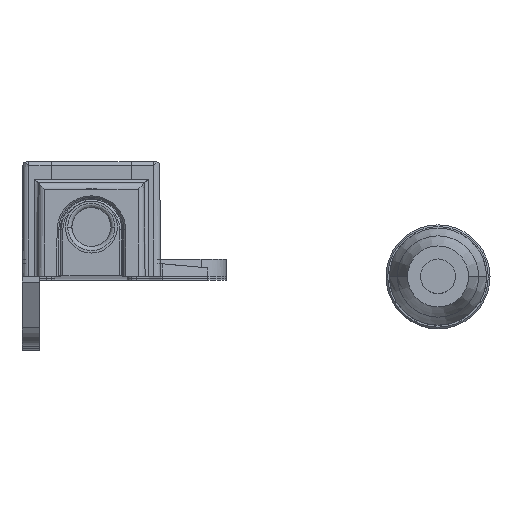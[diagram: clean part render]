
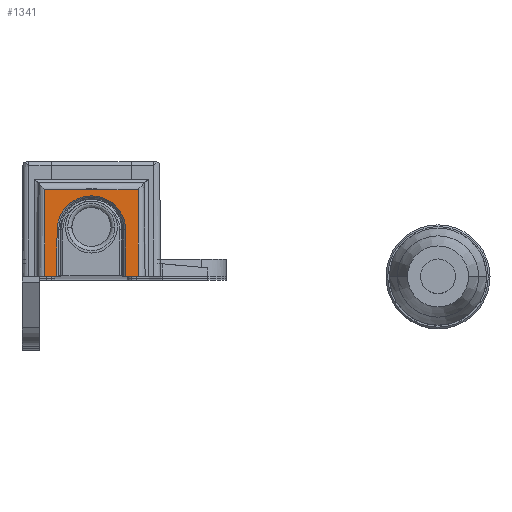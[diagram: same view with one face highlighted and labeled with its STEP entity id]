
A CAD part, top view. The second image highlights one B-rep face of the part: STEP entity #1341.
In plain terms, the highlighted planar face has unit normal (0, 0.009, 1).
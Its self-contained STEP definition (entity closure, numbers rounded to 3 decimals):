
#251 = CARTESIAN_POINT ( 'NONE',  ( -5., 0., 3.5 ) ) ;
#909 = DIRECTION ( 'NONE',  ( 1., 0., 0. ) ) ;
#1128 = CARTESIAN_POINT ( 'NONE',  ( 4.942, 6.7, 3.442 ) ) ;
#1341 = ADVANCED_FACE ( 'NONE', ( #25108 ), #5895, .T. ) ;
#2262 = EDGE_CURVE ( 'NONE', #19901, #13953, #17200, .T. ) ;
#2382 = DIRECTION ( 'NONE',  ( 0.009, 1., -0.009 ) ) ;
#2948 = AXIS2_PLACEMENT_3D ( 'NONE', #21167, #8064, #23355 ) ;
#3460 = VERTEX_POINT ( 'NONE', #3802 ) ;
#3633 = LINE ( 'NONE', #18305, #25474 ) ;
#3802 = CARTESIAN_POINT ( 'NONE',  ( -5., 0., 3.5 ) ) ;
#4552 = EDGE_CURVE ( 'NONE', #5711, #19959, #11131, .T. ) ;
#4646 = DIRECTION ( 'NONE',  ( -1., 0., 0. ) ) ;
#5666 = LINE ( 'NONE', #23295, #16577 ) ;
#5711 = VERTEX_POINT ( 'NONE', #14513 ) ;
#5895 = PLANE ( 'NONE',  #2948 ) ;
#6549 = ORIENTED_EDGE ( 'NONE', *, *, #23783, .T. ) ;
#6906 = CARTESIAN_POINT ( 'NONE',  ( -6.75, 12.509, 3.391 ) ) ;
#7523 = VECTOR ( 'NONE', #28116, 1000. ) ;
#8064 = DIRECTION ( 'NONE',  ( 0., 0.009, 1. ) ) ;
#8068 = VERTEX_POINT ( 'NONE', #9829 ) ;
#8119 = ORIENTED_EDGE ( 'NONE', *, *, #20942, .T. ) ;
#8796 = LINE ( 'NONE', #6906, #20423 ) ;
#9238 = VECTOR ( 'NONE', #2382, 1000. ) ;
#9474 = CARTESIAN_POINT ( 'NONE',  ( 6.75, 0., 3.5 ) ) ;
#9829 = CARTESIAN_POINT ( 'NONE',  ( -6.75, 12.509, 3.391 ) ) ;
#11131 =( BOUNDED_CURVE ( )  B_SPLINE_CURVE ( 3, ( #14129, #11941, #27112, #1128 ),
 .UNSPECIFIED., .F., .T. ) 
 B_SPLINE_CURVE_WITH_KNOTS ( ( 4, 4 ),
 ( 1.58, 4.704 ),
 .UNSPECIFIED. ) 
 CURVE ( )  GEOMETRIC_REPRESENTATION_ITEM ( )  RATIONAL_B_SPLINE_CURVE ( ( 1., 0.339, 0.339, 1. ) ) 
 REPRESENTATION_ITEM ( '' )  );
#11369 = VECTOR ( 'NONE', #18993, 1000. ) ;
#11941 = CARTESIAN_POINT ( 'NONE',  ( -4.857, 16.414, 3.357 ) ) ;
#12429 = EDGE_CURVE ( 'NONE', #13953, #8068, #8796, .T. ) ;
#13146 = CARTESIAN_POINT ( 'NONE',  ( -6.75, 0., 3.5 ) ) ;
#13953 = VERTEX_POINT ( 'NONE', #18503 ) ;
#14129 = CARTESIAN_POINT ( 'NONE',  ( -4.942, 6.7, 3.442 ) ) ;
#14399 = ORIENTED_EDGE ( 'NONE', *, *, #4552, .T. ) ;
#14513 = CARTESIAN_POINT ( 'NONE',  ( -4.942, 6.7, 3.442 ) ) ;
#14870 = LINE ( 'NONE', #27804, #20708 ) ;
#16528 = VERTEX_POINT ( 'NONE', #21044 ) ;
#16577 = VECTOR ( 'NONE', #25487, 1000. ) ;
#16791 = ORIENTED_EDGE ( 'NONE', *, *, #12429, .T. ) ;
#16941 = DIRECTION ( 'NONE',  ( 0., -1., 0.009 ) ) ;
#17200 = LINE ( 'NONE', #27647, #11369 ) ;
#17345 = VERTEX_POINT ( 'NONE', #13146 ) ;
#17471 = ORIENTED_EDGE ( 'NONE', *, *, #2262, .T. ) ;
#18305 = CARTESIAN_POINT ( 'NONE',  ( -9., 0., 3.5 ) ) ;
#18361 = CARTESIAN_POINT ( 'NONE',  ( 4.942, 6.7, 3.442 ) ) ;
#18463 = LINE ( 'NONE', #19084, #7523 ) ;
#18503 = CARTESIAN_POINT ( 'NONE',  ( 6.75, 12.509, 3.391 ) ) ;
#18993 = DIRECTION ( 'NONE',  ( 0., 1., -0.009 ) ) ;
#19084 = CARTESIAN_POINT ( 'NONE',  ( -9., 0., 3.5 ) ) ;
#19901 = VERTEX_POINT ( 'NONE', #9474 ) ;
#19959 = VERTEX_POINT ( 'NONE', #18361 ) ;
#20423 = VECTOR ( 'NONE', #4646, 1000. ) ;
#20708 = VECTOR ( 'NONE', #16941, 1000. ) ;
#20843 = EDGE_CURVE ( 'NONE', #16528, #19901, #18463, .T. ) ;
#20942 = EDGE_CURVE ( 'NONE', #3460, #5711, #26632, .T. ) ;
#21044 = CARTESIAN_POINT ( 'NONE',  ( 5., 0., 3.5 ) ) ;
#21167 = CARTESIAN_POINT ( 'NONE',  ( -6.75, 0., 3.5 ) ) ;
#23295 = CARTESIAN_POINT ( 'NONE',  ( 4.942, 6.7, 3.442 ) ) ;
#23355 = DIRECTION ( 'NONE',  ( 0., -1., 0.009 ) ) ;
#23559 = EDGE_CURVE ( 'NONE', #17345, #3460, #3633, .T. ) ;
#23590 = ORIENTED_EDGE ( 'NONE', *, *, #20843, .T. ) ;
#23783 = EDGE_CURVE ( 'NONE', #8068, #17345, #14870, .T. ) ;
#23885 = ORIENTED_EDGE ( 'NONE', *, *, #25893, .T. ) ;
#24502 = ORIENTED_EDGE ( 'NONE', *, *, #23559, .T. ) ;
#25108 = FACE_OUTER_BOUND ( 'NONE', #25658, .T. ) ;
#25474 = VECTOR ( 'NONE', #909, 1000. ) ;
#25487 = DIRECTION ( 'NONE',  ( 0.009, -1., 0.009 ) ) ;
#25658 = EDGE_LOOP ( 'NONE', ( #24502, #8119, #14399, #23885, #23590, #17471, #16791, #6549 ) ) ;
#25893 = EDGE_CURVE ( 'NONE', #19959, #16528, #5666, .T. ) ;
#26632 = LINE ( 'NONE', #251, #9238 ) ;
#27112 = CARTESIAN_POINT ( 'NONE',  ( 4.857, 16.414, 3.357 ) ) ;
#27647 = CARTESIAN_POINT ( 'NONE',  ( 6.75, 0., 3.5 ) ) ;
#27804 = CARTESIAN_POINT ( 'NONE',  ( -6.75, 0., 3.5 ) ) ;
#28116 = DIRECTION ( 'NONE',  ( 1., 0., 0. ) ) ;
